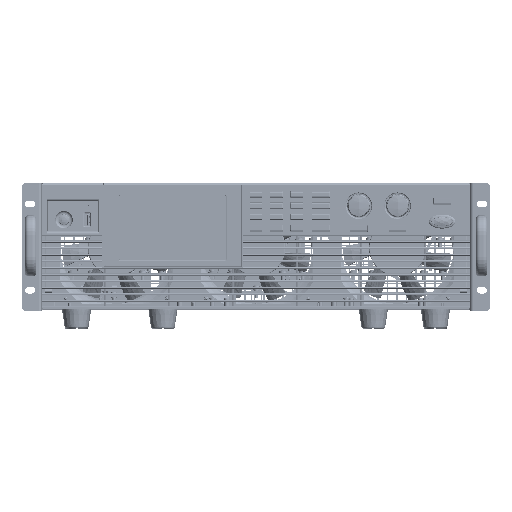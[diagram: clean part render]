
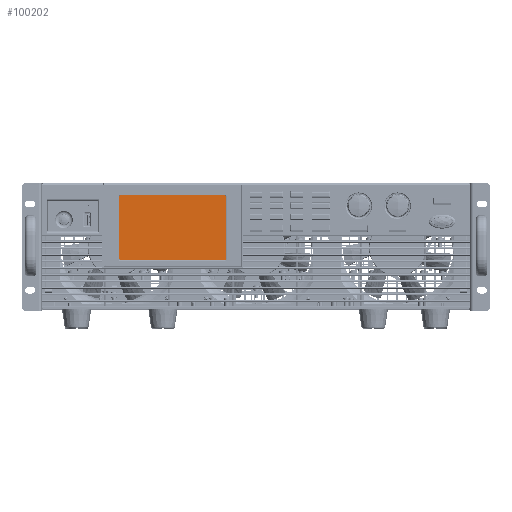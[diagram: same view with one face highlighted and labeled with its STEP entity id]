
A CAD part, top view. The second image highlights one B-rep face of the part: STEP entity #100202.
In plain terms, the highlighted planar face has unit normal (0, 0, 1).
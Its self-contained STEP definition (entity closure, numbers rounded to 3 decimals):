
#100087=DIRECTION('',(0.,1.,0.));
#100088=VECTOR('',#100087,71.5);
#100089=CARTESIAN_POINT('',(-59.25,-35.75,1.1));
#100090=LINE('',#100089,#100088);
#100091=DIRECTION('',(1.,0.,0.));
#100092=VECTOR('',#100091,118.5);
#100093=CARTESIAN_POINT('',(-59.25,35.75,1.1));
#100094=LINE('',#100093,#100092);
#100095=DIRECTION('',(0.,-1.,0.));
#100096=VECTOR('',#100095,71.5);
#100097=CARTESIAN_POINT('',(59.25,35.75,1.1));
#100098=LINE('',#100097,#100096);
#100099=DIRECTION('',(-1.,0.,0.));
#100100=VECTOR('',#100099,118.5);
#100101=CARTESIAN_POINT('',(59.25,-35.75,1.1));
#100102=LINE('',#100101,#100100);
#100111=CARTESIAN_POINT('',(-59.25,35.75,1.1));
#100112=VERTEX_POINT('',#100111);
#100113=CARTESIAN_POINT('',(-59.25,-35.75,1.1));
#100114=VERTEX_POINT('',#100113);
#100115=CARTESIAN_POINT('',(59.25,35.75,1.1));
#100116=VERTEX_POINT('',#100115);
#100117=CARTESIAN_POINT('',(59.25,-35.75,1.1));
#100118=VERTEX_POINT('',#100117);
#100191=CARTESIAN_POINT('',(0.,0.,1.1));
#100192=DIRECTION('',(0.,0.,1.));
#100193=DIRECTION('',(1.,0.,0.));
#100194=AXIS2_PLACEMENT_3D('',#100191,#100192,#100193);
#100195=PLANE('',#100194);
#100196=ORIENTED_EDGE('',*,*,#100143,.T.);
#100197=ORIENTED_EDGE('',*,*,#100158,.T.);
#100198=ORIENTED_EDGE('',*,*,#100172,.T.);
#100199=ORIENTED_EDGE('',*,*,#100185,.T.);
#100200=EDGE_LOOP('',(#100196,#100197,#100198,#100199));
#100201=FACE_OUTER_BOUND('',#100200,.F.);
#100202=ADVANCED_FACE('',(#100201),#100195,.T.);
#100143=EDGE_CURVE('',#100114,#100112,#100090,.T.);
#100158=EDGE_CURVE('',#100112,#100116,#100094,.T.);
#100172=EDGE_CURVE('',#100116,#100118,#100098,.T.);
#100185=EDGE_CURVE('',#100118,#100114,#100102,.T.);
